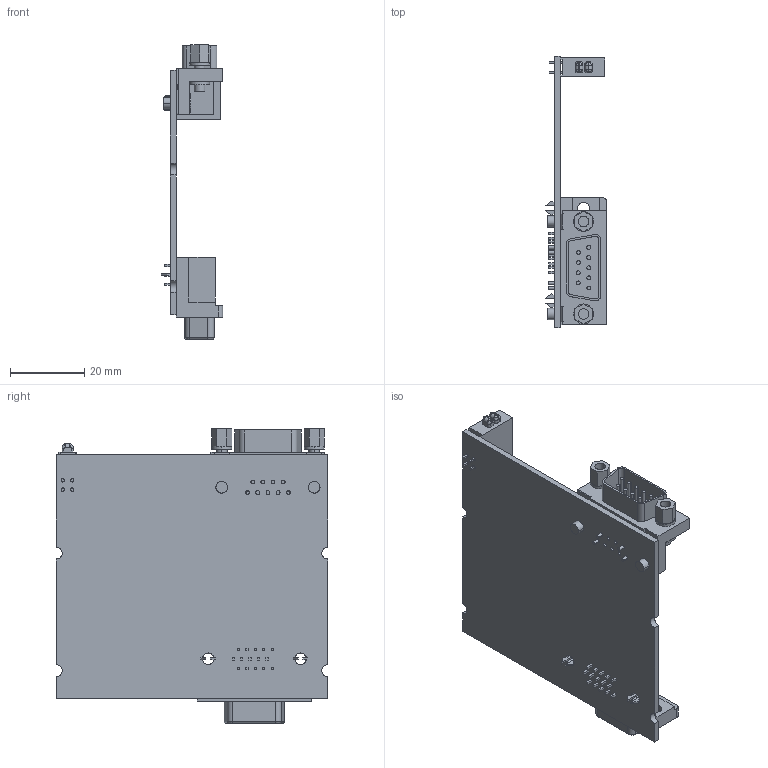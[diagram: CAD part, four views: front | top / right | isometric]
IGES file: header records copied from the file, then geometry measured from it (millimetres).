
Start section:  PTC IGES file: cu_sbrio-98xx.igs
Global section: file name: cu_sbrio-98xx.igs; native system: Creo Parametric by PTC Inc.; preprocessor: 2015380; author: dkendric; organization: Unknown; date: 20170921.131408; units: inch
Bounding box: 16.61 x 73.38 x 79.63 mm (x, y, z)
Surface area: 15819.5 mm2 (no closed solid volume)
Topology: 0 solids, 0 shells, 614 faces, 2888 edges, 2888 vertices
Faces by surface type: bspline 360, revolution 254
